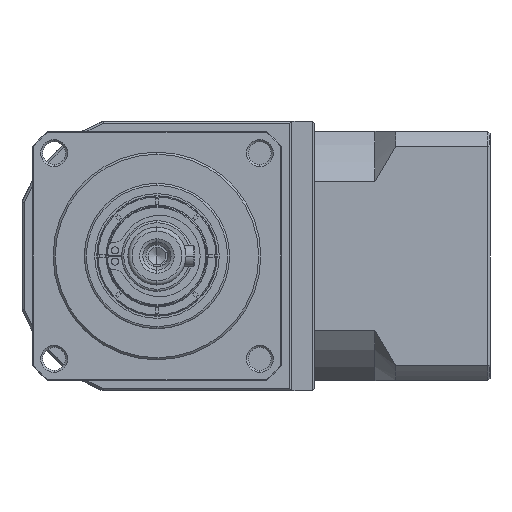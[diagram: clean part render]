
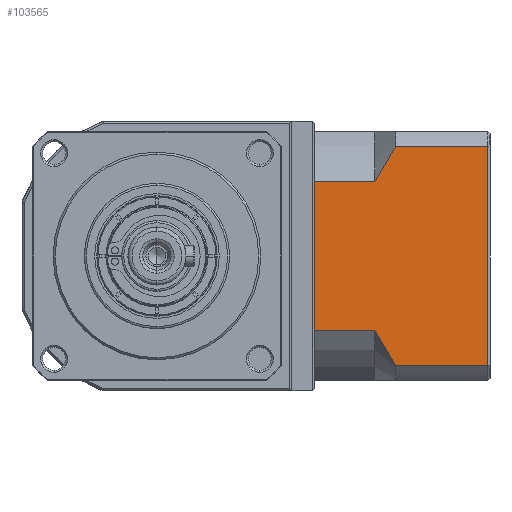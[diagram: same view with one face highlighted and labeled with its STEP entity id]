
A CAD part, left-side view. The second image highlights one B-rep face of the part: STEP entity #103565.
In plain terms, the highlighted planar face has unit normal (-1, 0, 0).
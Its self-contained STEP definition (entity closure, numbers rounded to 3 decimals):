
#2012 = EDGE_CURVE ( 'NONE', #99850, #115323, #64055, .T. ) ;
#5683 = VECTOR ( 'NONE', #139814, 1000. ) ;
#7573 = DIRECTION ( 'NONE',  ( 0., -1., 0. ) ) ;
#7615 = CARTESIAN_POINT ( 'NONE',  ( -26.181, -79.918, -150.915 ) ) ;
#8232 = PLANE ( 'NONE',  #28062 ) ;
#8762 = DIRECTION ( 'NONE',  ( 0., 1., 0. ) ) ;
#9623 = CARTESIAN_POINT ( 'NONE',  ( -26.181, -74.918, -142.485 ) ) ;
#9837 = DIRECTION ( 'NONE',  ( 0., 1., 0. ) ) ;
#12466 = CARTESIAN_POINT ( 'NONE',  ( -26.181, -102.118, -150.915 ) ) ;
#17163 = EDGE_CURVE ( 'NONE', #115015, #99252, #36673, .T. ) ;
#23583 = LINE ( 'NONE', #78528, #117105 ) ;
#28062 = AXIS2_PLACEMENT_3D ( 'NONE', #154857, #81730, #8762 ) ;
#28401 = LINE ( 'NONE', #80526, #121986 ) ;
#34800 = CARTESIAN_POINT ( 'NONE',  ( -26.181, -79.918, -150.915 ) ) ;
#34990 = CARTESIAN_POINT ( 'NONE',  ( -26.181, -79.017, -149.552 ) ) ;
#35120 = CARTESIAN_POINT ( 'NONE',  ( -26.181, -78.143, -148.172 ) ) ;
#35171 = CARTESIAN_POINT ( 'NONE',  ( -26.181, -74.918, -142.485 ) ) ;
#35424 = ORIENTED_EDGE ( 'NONE', *, *, #114557, .F. ) ;
#35529 = CARTESIAN_POINT ( 'NONE',  ( -26.181, -75.668, -143.941 ) ) ;
#36326 = VERTEX_POINT ( 'NONE', #12466 ) ;
#36673 = B_SPLINE_CURVE_WITH_KNOTS ( 'NONE', 3,
 ( #35171, #35529, #37574, #35120, #34990, #34800 ),
 .UNSPECIFIED., .F., .F.,
 ( 4, 2, 4 ),
 ( 0.1, 0.104, 0.109 ),
 .UNSPECIFIED. ) ;
#36720 = EDGE_CURVE ( 'NONE', #109522, #110865, #28401, .T. ) ;
#37574 = CARTESIAN_POINT ( 'NONE',  ( -26.181, -76.469, -145.367 ) ) ;
#38925 = ORIENTED_EDGE ( 'NONE', *, *, #63358, .T. ) ;
#39712 = ORIENTED_EDGE ( 'NONE', *, *, #36720, .F. ) ;
#46829 = LINE ( 'NONE', #130926, #107956 ) ;
#48663 = ORIENTED_EDGE ( 'NONE', *, *, #105224, .T. ) ;
#51516 = CARTESIAN_POINT ( 'NONE',  ( -26.181, -79.018, -99.36 ) ) ;
#51820 = EDGE_CURVE ( 'NONE', #115015, #126880, #23583, .T. ) ;
#52031 = ORIENTED_EDGE ( 'NONE', *, *, #2012, .F. ) ;
#52611 = ORIENTED_EDGE ( 'NONE', *, *, #94970, .T. ) ;
#53870 = CARTESIAN_POINT ( 'NONE',  ( -26.181, -74.918, -106.429 ) ) ;
#55919 = ORIENTED_EDGE ( 'NONE', *, *, #51820, .F. ) ;
#56349 = ORIENTED_EDGE ( 'NONE', *, *, #17163, .T. ) ;
#63358 = EDGE_CURVE ( 'NONE', #36326, #110865, #102941, .T. ) ;
#63879 = CARTESIAN_POINT ( 'NONE',  ( -26.181, -76.469, -103.546 ) ) ;
#64055 = LINE ( 'NONE', #157944, #129065 ) ;
#64239 = LINE ( 'NONE', #102396, #96754 ) ;
#76182 = CARTESIAN_POINT ( 'NONE',  ( -26.181, -74.918, -106.429 ) ) ;
#78528 = CARTESIAN_POINT ( 'NONE',  ( -26.181, -74.918, -142.485 ) ) ;
#80526 = CARTESIAN_POINT ( 'NONE',  ( -26.181, -74.918, -98. ) ) ;
#81730 = DIRECTION ( 'NONE',  ( 1., 0., 0. ) ) ;
#90348 = CARTESIAN_POINT ( 'NONE',  ( -26.181, -102.118, -98. ) ) ;
#94970 = EDGE_CURVE ( 'NONE', #99850, #126880, #64239, .T. ) ;
#96754 = VECTOR ( 'NONE', #126994, 1000. ) ;
#99252 = VERTEX_POINT ( 'NONE', #7615 ) ;
#99850 = VERTEX_POINT ( 'NONE', #111719 ) ;
#100169 = EDGE_LOOP ( 'NONE', ( #35424, #38925, #39712, #48663, #52031, #52611, #55919, #56349 ) ) ;
#102396 = CARTESIAN_POINT ( 'NONE',  ( -26.181, -60.418, -154.457 ) ) ;
#102941 = LINE ( 'NONE', #127527, #5683 ) ;
#103565 = ADVANCED_FACE ( 'NONE', ( #125980 ), #8232, .F. ) ;
#105224 = EDGE_CURVE ( 'NONE', #109522, #115323, #124589, .T. ) ;
#107956 = VECTOR ( 'NONE', #9837, 1000. ) ;
#109522 = VERTEX_POINT ( 'NONE', #117948 ) ;
#110865 = VERTEX_POINT ( 'NONE', #90348 ) ;
#111719 = CARTESIAN_POINT ( 'NONE',  ( -26.181, -60.418, -106.429 ) ) ;
#114557 = EDGE_CURVE ( 'NONE', #36326, #99252, #46829, .T. ) ;
#115015 = VERTEX_POINT ( 'NONE', #9623 ) ;
#115323 = VERTEX_POINT ( 'NONE', #53870 ) ;
#117105 = VECTOR ( 'NONE', #127158, 1000. ) ;
#117948 = CARTESIAN_POINT ( 'NONE',  ( -26.181, -79.918, -98. ) ) ;
#121986 = VECTOR ( 'NONE', #7573, 1000. ) ;
#124589 = B_SPLINE_CURVE_WITH_KNOTS ( 'NONE', 3,
 ( #137064, #51516, #124750, #63879, #149267, #76182 ),
 .UNSPECIFIED., .F., .F.,
 ( 4, 2, 4 ),
 ( 0.052, 0.057, 0.062 ),
 .UNSPECIFIED. ) ;
#124750 = CARTESIAN_POINT ( 'NONE',  ( -26.181, -78.145, -100.738 ) ) ;
#125980 = FACE_OUTER_BOUND ( 'NONE', #100169, .T. ) ;
#126880 = VERTEX_POINT ( 'NONE', #127788 ) ;
#126994 = DIRECTION ( 'NONE',  ( 0., 0., -1. ) ) ;
#127158 = DIRECTION ( 'NONE',  ( 0., 1., 0. ) ) ;
#127527 = CARTESIAN_POINT ( 'NONE',  ( -26.181, -102.118, -154.457 ) ) ;
#127788 = CARTESIAN_POINT ( 'NONE',  ( -26.181, -60.418, -142.485 ) ) ;
#129065 = VECTOR ( 'NONE', #155680, 1000. ) ;
#130926 = CARTESIAN_POINT ( 'NONE',  ( -26.181, -74.918, -150.915 ) ) ;
#137064 = CARTESIAN_POINT ( 'NONE',  ( -26.181, -79.918, -98. ) ) ;
#139814 = DIRECTION ( 'NONE',  ( 0., 0., 1. ) ) ;
#149267 = CARTESIAN_POINT ( 'NONE',  ( -26.181, -75.666, -104.977 ) ) ;
#154857 = CARTESIAN_POINT ( 'NONE',  ( -26.181, -102.618, -154.457 ) ) ;
#155680 = DIRECTION ( 'NONE',  ( 0., -1., 0. ) ) ;
#157944 = CARTESIAN_POINT ( 'NONE',  ( -26.181, -74.918, -106.429 ) ) ;
